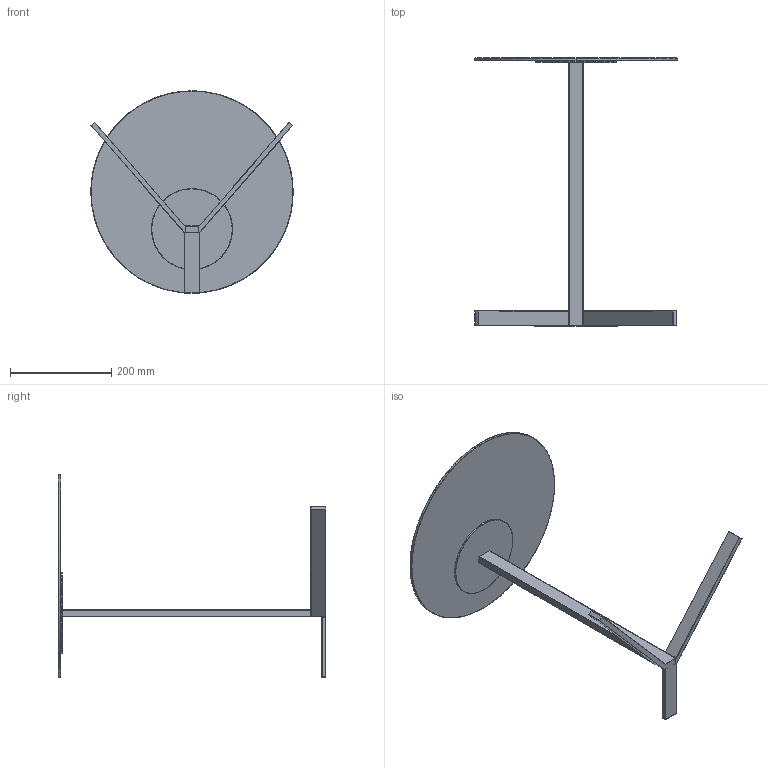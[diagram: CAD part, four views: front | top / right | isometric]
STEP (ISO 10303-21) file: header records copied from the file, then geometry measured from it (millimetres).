
FILE_DESCRIPTION(/* description */ (''),/* implementation_level */ '2;1');
FILE_NAME(/* name */ 'BIRDY_~2',/* time_stamp */ '2020-03-23T13:47:07+01:00',/* author */ (''),/* organization */ (''),/* preprocessor_version */ 'ST-DEVELOPER v15',/* originating_system */ '',/* authorisation */ '');
FILE_SCHEMA (('AUTOMOTIVE_DESIGN'));
Length unit declared in the file: millimetre
Products named in the file (1): Document
Bounding box: 399.97 x 530 x 400 mm (x, y, z)
Volume: 689622.5 mm3; surface area: 438753.5 mm2
Topology: 2 solids, 3 shells, 120 faces, 278 edges, 146 vertices
Faces by surface type: bspline 93, plane 27
Entity records: 6087 total; most frequent: CARTESIAN_POINT 4523, ORIENTED_EDGE 518, EDGE_CURVE 266, VERTEX_POINT 146, B_SPLINE_CURVE_WITH_KNOTS 130, EDGE_LOOP 121, ADVANCED_FACE 120, FACE_OUTER_BOUND 120
